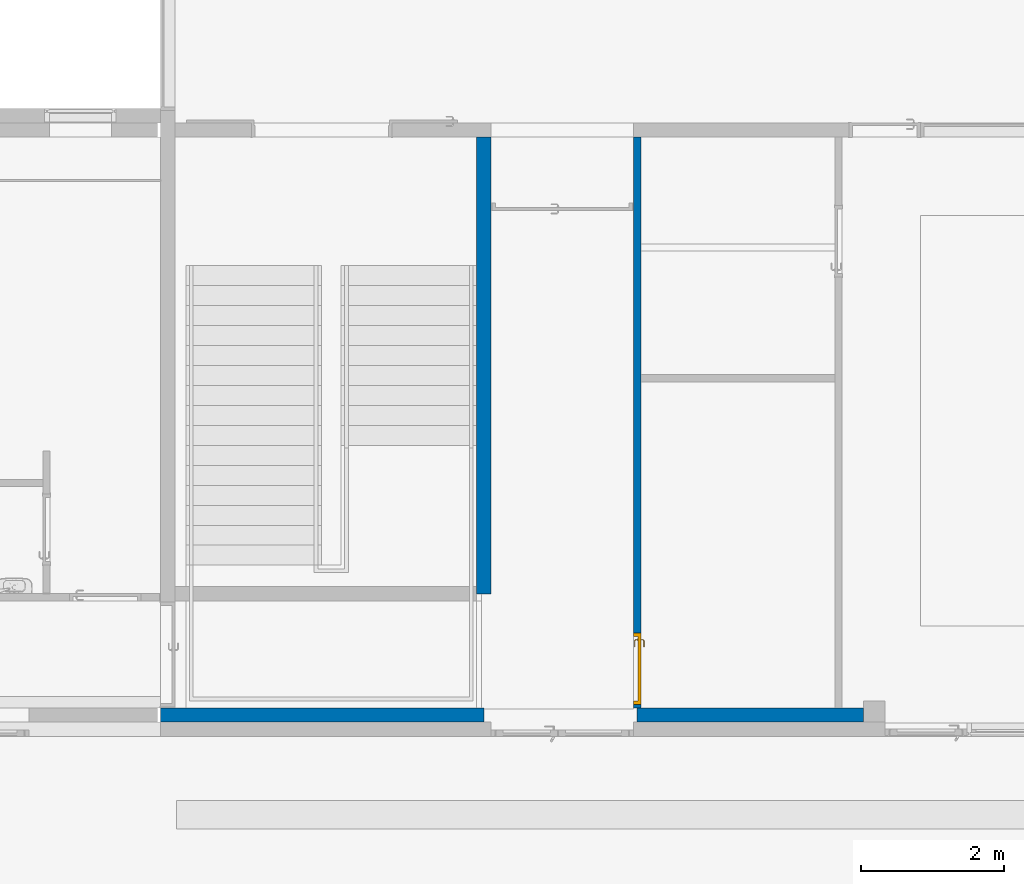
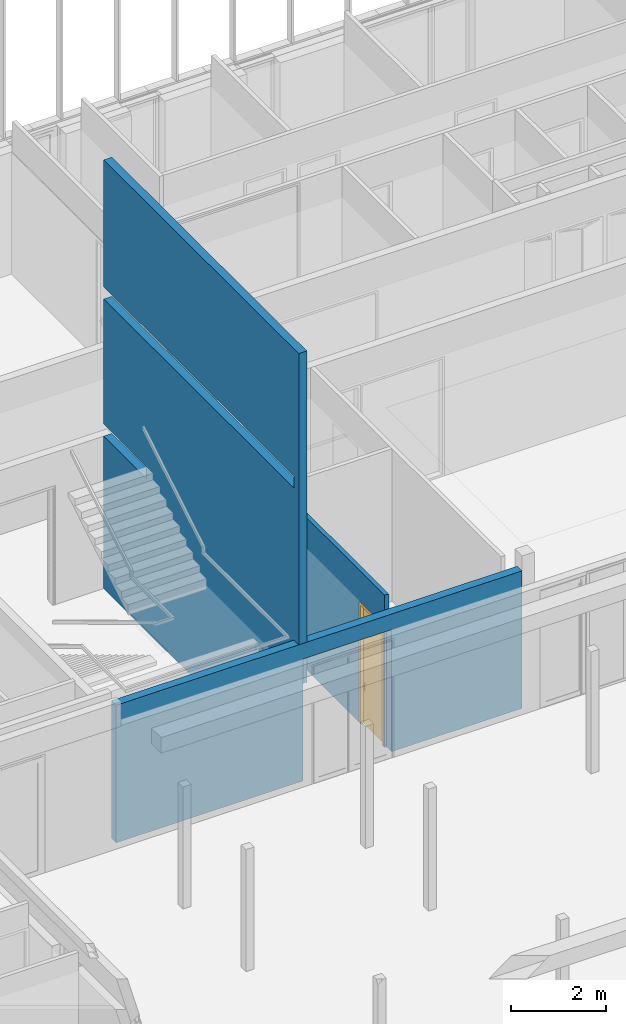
# One storey, part 125 of 240: 3 walls, 1 door, 5 openings.
"""IFC2X3 building model written with IfcOpenShell, lengths in centimetres."""

from ifc_helpers import new_model, entity, si_unit, converted_unit, derived_unit, direction, frame, frame_2d, origin, origin_2d_with_axis, place, context, subcontext, project, spatial, polyline, rectangle, extrude, clip, bounded_halfspace, faceted_brep, source, transform, mapped, material, material_list, layer, layer_set, layer_usage, type_object, type_shapes, element, fill, save


model = new_model("IFC2X3")

# Units and contexts
model_context = context("Model", 3, precision=0.001, world=origin(), true_north=direction((6.12303176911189e-17, 1.0)))
body_context = subcontext(model_context, "Body", "Model", "MODEL_VIEW")
ifc_project = project(units=[si_unit("LENGTHUNIT", "METRE", prefix="CENTI"), si_unit("AREAUNIT", "SQUARE_METRE"), si_unit("VOLUMEUNIT", "CUBIC_METRE"), converted_unit("PLANEANGLEUNIT", "DEGREE", entity("IfcRatioMeasure", 0.0174532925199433), si_unit("PLANEANGLEUNIT", "RADIAN"), dimensions=[0, 0, 0, 0, 0, 0, 0]), si_unit("MASSUNIT", "GRAM", prefix="KILO"), derived_unit("MASSDENSITYUNIT", [(si_unit("MASSUNIT", "GRAM", prefix="KILO"), 1), (si_unit("LENGTHUNIT", "METRE"), -3)]), si_unit("TIMEUNIT", "SECOND"), si_unit("FREQUENCYUNIT", "HERTZ"), si_unit("THERMODYNAMICTEMPERATUREUNIT", "DEGREE_CELSIUS"), derived_unit("THERMALTRANSMITTANCEUNIT", [(si_unit("MASSUNIT", "GRAM", prefix="KILO"), 1), (si_unit("THERMODYNAMICTEMPERATUREUNIT", "KELVIN"), -1), (si_unit("TIMEUNIT", "SECOND"), -3)]), derived_unit("VOLUMETRICFLOWRATEUNIT", [(si_unit("LENGTHUNIT", "METRE"), 3), (si_unit("TIMEUNIT", "SECOND"), -1)]), si_unit("ELECTRICCURRENTUNIT", "AMPERE"), si_unit("ELECTRICVOLTAGEUNIT", "VOLT"), si_unit("POWERUNIT", "WATT"), si_unit("FORCEUNIT", "NEWTON", prefix="KILO"), si_unit("ILLUMINANCEUNIT", "LUX"), si_unit("LUMINOUSFLUXUNIT", "LUMEN"), si_unit("LUMINOUSINTENSITYUNIT", "CANDELA"), derived_unit("USERDEFINED", [(si_unit("MASSUNIT", "GRAM", prefix="KILO"), -1), (si_unit("LENGTHUNIT", "METRE"), -2), (si_unit("TIMEUNIT", "SECOND"), 3), (si_unit("LUMINOUSFLUXUNIT", "LUMEN"), 1)]), derived_unit("LINEARVELOCITYUNIT", [(si_unit("LENGTHUNIT", "METRE"), 1), (si_unit("TIMEUNIT", "SECOND"), -1)]), si_unit("PRESSUREUNIT", "PASCAL"), derived_unit("USERDEFINED", [(si_unit("LENGTHUNIT", "METRE"), -2), (si_unit("MASSUNIT", "GRAM", prefix="KILO"), 1), (si_unit("TIMEUNIT", "SECOND"), -2)])], contexts=[model_context])

# Site, building, storey
site_placement = place(None, frame((-2781.94577612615, 7442.24238424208, 0.0)))
site = spatial("IfcSite", under=ifc_project, at=site_placement, Name="Default", CompositionType="ELEMENT")
building_placement = place(site_placement, origin())
building = spatial("IfcBuilding", under=site, at=building_placement, CompositionType="ELEMENT")
storey_placement = place(building_placement, origin())
storey = spatial("IfcBuildingStorey", under=building, at=storey_placement, Name="N00 - COO", CompositionType="ELEMENT", Elevation=0.0)

# Wall, openings
ifc_material_1 = material(Name="01 - Maçonnerie")
ifc_layer_1 = layer(ifc_material_1, 20.0)
ifc_layer_set_1 = layer_set([ifc_layer_1], Name="Mur de base:04 - Structure - béton - 20cm")
ifc_layer_usage_1 = layer_usage(ifc_layer_set_1, "AXIS2", "NEGATIVE", 10.0)
wall_type_1 = type_object("IfcWallType", Name="Mur de base:04 - Structure - béton - 20cm", PredefinedType="STANDARD", material=ifc_layer_set_1)
wall_1_placement = place(building_placement, frame((-7976.49987760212, -1110.0, 0.0), z_axis=(0.0, 0.0, 1.0), x_axis=(0.0, -1.0, 0.0)))
wall_1 = element("IfcWallStandardCase", 1, at=wall_1_placement, inside=storey, type_object=wall_type_1, material=ifc_layer_usage_1, Name="Mur de base:04 - Structure - béton - 20cm", ObjectType="Mur de base:04 - Structure - béton - 20cm", context=body_context, shape_type="Clipping", body=[
    clip(clip(extrude(rectangle(XDim=820.079033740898, YDim=19.9999999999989, at=frame_2d((410.039516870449, 2.1316282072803e-14), x_axis=(-1.0, 0.0))), origin(), (0.0, 0.0, 1.0), 1100.0), bounded_halfspace(frame((800.079033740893, 10.0, 743.0), z_axis=(1.0, 0.0, 0.0), x_axis=(0.0, 0.0, 1.0)), True, frame((800.079033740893, 10.0, 743.0), z_axis=(1.0, 0.0, 0.0), x_axis=(0.0, 0.0, 1.0)), polyline([(0.0, 0.0), (31.0, 0.0), (31.0, 20.0), (0.0, 20.0), (0.0, 0.0)]))), bounded_halfspace(frame((180.0, 10.0, 391.0), z_axis=(1.0, 0.0, 0.0), x_axis=(0.0, 0.0, 1.0)), True, frame((180.0, 10.0, 391.0), z_axis=(1.0, 0.0, 0.0), x_axis=(0.0, 0.0, 1.0)), polyline([(0.0, 0.0), (31.0, 0.0), (31.0, 20.0), (0.0, 20.0), (0.0, 0.0)]))),
])
opening_1_placement = place(building_placement, frame((-7976.49987760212, -1110.0, 0.0), z_axis=(0.0, 0.0, 1.0), x_axis=(0.0, -1.0, 0.0)))
element("IfcOpeningElement", 2, at=opening_1_placement, cuts=wall_1, Name="Mur de base:04 - Structure - béton - 20cm:1", ObjectType="Opening", context=body_context, shape_type="SweptSolid", body=[
    extrude(rectangle(XDim=801.389033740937, YDim=13.0001640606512, at=origin_2d_with_axis()), frame((400.694516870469, 3.49991796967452, 306.0)), (0.0, 0.0, 1.0), 6.99999999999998),
])
opening_2_placement = place(wall_1_placement, origin())
element("IfcOpeningElement", 3, at=opening_2_placement, cuts=wall_1, Name="Mur de base:04 - Structure - béton - 20cm", ObjectType="Opening", context=body_context, shape_type="SweptSolid", body=[
    extrude(rectangle(XDim=304.500000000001, YDim=10.0000000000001, at=frame_2d((1.08357767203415e-13, 0.0), x_axis=(0.0, 1.0))), frame((97.7880292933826, 11.5, 152.250000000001), z_axis=(0.0, 1.0, 0.0), x_axis=(1.0, 0.0, 0.0)), (0.0, 0.0, 1.0), 196.999999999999),
])
opening_3_placement = place(wall_1_placement, origin())
element("IfcOpeningElement", 4, at=opening_3_placement, cuts=wall_1, Name="Mur de base:04 - Structure - béton - 20cm:4570", ObjectType="Opening", context=body_context, shape_type="SweptSolid", body=[
    extrude(rectangle(XDim=250.0, YDim=189.99999999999, at=frame_2d((-1.13686837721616e-13, 0.0), x_axis=(0.0, 1.0))), frame((735.079033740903, 10.0, 125.0), z_axis=(0.0, -1.0, 0.0), x_axis=(1.0, 0.0, 0.0)), (0.0, 0.0, 1.0), 20.0),
])

# Wall, opening
ifc_layer_usage_2 = layer_usage(ifc_layer_set_1, "AXIS2", "NEGATIVE", 10.0)
wall_2_placement = place(building_placement, frame((-8429.49987766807, -1920.07903364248, 0.0)))
wall_2 = element("IfcWallStandardCase", 5, at=wall_2_placement, inside=storey, type_object=wall_type_1, material=ifc_layer_usage_2, Name="Mur de base:04 - Structure - béton - 20cm", ObjectType="Mur de base:04 - Structure - béton - 20cm", context=body_context, shape_type="SweptSolid", body=[
    extrude(rectangle(XDim=984.999836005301, YDim=19.9999999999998, at=frame_2d((492.49991800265, 0.0), x_axis=(-1.0, 0.0))), origin(), (0.0, 0.0, 1.0), 353.000000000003),
])
opening_4_placement = place(wall_2_placement, origin())
element("IfcOpeningElement", 6, at=opening_4_placement, cuts=wall_2, Name="Mur de base:04 - Structure - béton - 20cm", ObjectType="Opening", context=body_context, shape_type="SweptSolid", body=[
    extrude(rectangle(XDim=313.0, YDim=215.000000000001, at=frame_2d((0.0, -4.33431068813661e-13), x_axis=(1.0, 0.0))), frame((560.500000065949, -10.0, 156.5), z_axis=(0.0, 1.0, 0.0), x_axis=(0.0, 0.0, -1.0)), (0.0, 0.0, 1.0), 19.9999999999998),
])

# Wall, opening, door
ifc_material_2 = material(Name="01 - Enduit/Plâtre")
ifc_layer_2 = layer(ifc_material_2, 1.3)
ifc_material_3 = material(Name="00 - Isolant")
ifc_layer_3 = layer(ifc_material_3, 7.4)
ifc_layer_4 = layer(ifc_material_2, 1.3)
ifc_layer_set_2 = layer_set([ifc_layer_2, ifc_layer_3, ifc_layer_4], Name="Mur de base:06 - cloisons - Ba13 10cm")
ifc_layer_usage_3 = layer_usage(ifc_layer_set_2, "AXIS2", "NEGATIVE", 5.0)
wall_type_2 = type_object("IfcWallType", Name="Mur de base:06 - cloisons - Ba13 10cm", PredefinedType="STANDARD", material=ifc_layer_set_2)
wall_3_placement = place(building_placement, frame((-7761.49987760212, -1110.0, 0.0), z_axis=(0.0, 0.0, 1.0), x_axis=(0.0, -1.0, 0.0)))
wall_3 = element("IfcWallStandardCase", 7, at=wall_3_placement, inside=storey, type_object=wall_type_2, material=ifc_layer_usage_3, Name="Mur de base:06 - cloisons - Ba13 10cm", ObjectType="Mur de base:06 - cloisons - Ba13 10cm", context=body_context, shape_type="Clipping", body=[
    clip(extrude(rectangle(XDim=800.079033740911, YDim=9.99999999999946, at=frame_2d((400.039516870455, 0.0), x_axis=(-1.0, 0.0))), origin(), (0.0, 0.0, 1.0), 391.0), bounded_halfspace(frame((0.0, -5.0, 391.0), z_axis=(0.0, 0.0, -1.0), x_axis=(-1.0, 0.0, 0.0)), True, frame((0.0, -5.0, 391.0)), polyline([(0.0, 0.0), (795.07903374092, 0.0), (795.07903374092, 10.0), (343.0, 10.0), (333.0, 10.0), (0.0, 10.0), (0.0, 0.0)]))),
])
opening_5_placement = place(wall_3_placement, frame((695.079033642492, -5.0, 0.0)))
opening_5 = element("IfcOpeningElement", 8, at=opening_5_placement, cuts=wall_3, Name="Int. Simple:PP (0.93m x 3.06m):1", ObjectType="Opening", context=body_context, shape_type="SweptSolid", body=[
    extrude(rectangle(XDim=309.500000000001, YDim=99.9999999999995, at=frame_2d((154.750000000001, 49.9999999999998), x_axis=(1.0, 0.0))), frame((0.0, 0.0, 0.0), z_axis=(0.0, 1.0, 0.0), x_axis=(0.0, 0.0, 1.0)), (0.0, 0.0, 1.0), 10.0),
])
ifc_material_4 = material(Name="Finition Peinture - Blanc satiné")
ifc_material_5 = material(Name="Bois - Panneau de porte")
ifc_material_6 = material(Name="Bois - Cadre de porte")
ifc_material_list_1 = material_list([ifc_material_4, ifc_material_5, ifc_material_6])
ifc_material_list_2 = material_list([ifc_material_4, ifc_material_5, ifc_material_6])
door_style = type_object("IfcDoorStyle", Name="PP (0.93m x 3.06m)", ConstructionType="NOTDEFINED", OperationType="SINGLE_SWING_RIGHT", ParameterTakesPrecedence=False, Sizeable=False, material=ifc_material_list_2)
shared_shape = source(origin(), body_context, "Body", "Brep", [
    faceted_brep([(99.5000000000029, -0.500000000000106, 87.0), (99.5000000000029, -0.500000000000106, 108.0), (98.535276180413, -0.500000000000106, 108.399601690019), (97.5000000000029, -0.500000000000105, 108.535898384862), (96.4647238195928, -0.500000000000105, 108.399601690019), (95.500000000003, -0.500000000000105, 108.0), (95.5000000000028, -0.500000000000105, 87.0), (96.4647238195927, -0.500000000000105, 86.6003983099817), (97.5000000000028, -0.500000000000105, 86.464101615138), (98.5352761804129, -0.500000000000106, 86.6003983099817), (99.5000000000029, 0.0, 108.0), (99.5000000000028, 0.0, 87.0), (98.5352761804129, 0.0, 86.6003983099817), (97.5000000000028, 0.0, 86.464101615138), (96.4647238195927, 0.0, 86.6003983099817), (95.5000000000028, 0.0, 87.0), (95.5000000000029, 0.0, 108.0), (96.4647238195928, 0.0, 108.399601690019), (97.5000000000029, 0.0, 108.535898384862), (98.535276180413, 0.0, 108.399601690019)], [[[0, 1, 2, 3, 4, 5, 6, 7, 8, 9]], [[10, 11, 12, 13, 14, 15, 16, 17, 18, 19]], [[9, 12, 11, 0]], [[8, 13, 12, 9]], [[7, 14, 13, 8]], [[7, 6, 15, 14]], [[15, 6, 5, 16]], [[4, 17, 16, 5]], [[3, 18, 17, 4]], [[2, 19, 18, 3]], [[2, 1, 10, 19]], [[11, 10, 1, 0]]]),
    faceted_brep([(99.5000000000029, 4.0, 87.0), (99.5000000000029, 4.0, 108.0), (98.535276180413, 4.0, 108.399601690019), (97.5000000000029, 4.0, 108.535898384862), (96.4647238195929, 4.0, 108.399601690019), (95.500000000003, 4.0, 108.0), (95.5000000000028, 4.0, 87.0), (96.4647238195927, 4.0, 86.6003983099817), (97.5000000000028, 4.0, 86.464101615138), (98.5352761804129, 4.0, 86.6003983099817), (97.5000000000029, 4.49999999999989, 108.535898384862), (98.535276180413, 4.49999999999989, 108.399601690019), (99.5000000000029, 4.49999999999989, 108.0), (99.5000000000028, 4.49999999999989, 87.0), (98.5352761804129, 4.49999999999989, 86.6003983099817), (97.5000000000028, 4.49999999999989, 86.464101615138), (96.4647238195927, 4.49999999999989, 86.6003983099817), (95.5000000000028, 4.49999999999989, 87.0), (95.500000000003, 4.49999999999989, 108.0), (96.4647238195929, 4.49999999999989, 108.399601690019)], [[[0, 1, 2, 3, 4, 5, 6, 7, 8, 9]], [[10, 11, 12, 13, 14, 15, 16, 17, 18, 19]], [[4, 19, 18, 5]], [[3, 10, 19, 4]], [[2, 11, 10, 3]], [[2, 1, 12, 11]], [[13, 12, 1, 0]], [[9, 14, 13, 0]], [[8, 15, 14, 9]], [[7, 16, 15, 8]], [[7, 6, 17, 16]], [[17, 6, 5, 18]]]),
    faceted_brep([(97.2974701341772, -0.50000000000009, 100.778044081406), (97.7025298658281, -0.500000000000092, 100.778044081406), (98.1000000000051, -0.500000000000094, 100.699999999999), (98.100000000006, -0.500000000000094, 99.2999999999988), (97.7025298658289, -0.500000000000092, 99.221955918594), (97.297470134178, -0.50000000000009, 99.2219559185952), (96.9000000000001, -0.500000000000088, 99.3000000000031), (96.9000000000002, -0.500000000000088, 100.7), (97.7025298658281, -3.10045754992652, 100.778044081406), (98.1000000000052, -3.26509507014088, 100.7), (97.2974701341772, -2.93267631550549, 100.778044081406), (95.9298602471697, -4.30028620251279, 100.778044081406), (96.0976414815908, -4.70534593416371, 100.778044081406), (96.9000000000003, -2.76803879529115, 100.7), (96.9000000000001, -2.76803879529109, 99.3000000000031), (97.297470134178, -2.93267631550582, 99.2219559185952), (97.7025298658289, -3.10045754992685, 99.221955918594), (96.0976414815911, -4.70534593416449, 99.221955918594), (95.9298602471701, -4.30028620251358, 99.2219559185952), (98.100000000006, -3.26509507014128, 99.2999999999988), (96.2622790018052, -5.10281606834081, 100.7), (95.7652227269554, -3.90281606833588, 100.7), (95.7652227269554, -3.90281606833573, 99.3000000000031), (96.2622790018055, -5.10281606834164, 99.2999999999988), (87.4981359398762, -5.10281606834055, 100.7), (87.4981359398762, -4.70534593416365, 100.778044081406), (87.4981359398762, -4.30028620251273, 100.778044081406), (87.4981359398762, -3.90281606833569, 100.699999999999), (87.4981359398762, -3.90281606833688, 99.3000000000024), (87.4981359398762, -4.30028620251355, 99.2219559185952), (87.4981359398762, -4.70534593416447, 99.221955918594), (87.4981359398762, -5.10281606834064, 99.2999999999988), (91.7139980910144, -4.5028160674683, 100.78786867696), (92.2692302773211, -5.1028160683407, 100.7), (91.6316793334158, -3.9028160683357, 100.7), (91.631679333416, -3.9028160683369, 99.3000000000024), (91.7139981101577, -4.50281607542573, 99.2121313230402), (92.2692310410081, -5.10281606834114, 99.2999999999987)], [[[0, 1, 2, 3, 4, 5, 6, 7]], [[2, 1, 8, 9]], [[1, 0, 10, 11, 12, 8]], [[0, 7, 13, 10]], [[14, 13, 7, 6]], [[5, 15, 14, 6]], [[5, 4, 16, 17, 18, 15]], [[3, 19, 16, 4]], [[9, 19, 3, 2]], [[9, 8, 12, 20]], [[10, 13, 21, 11]], [[22, 21, 13, 14]], [[14, 15, 18, 22]], [[16, 19, 23, 17]], [[20, 23, 19, 9]], [[24, 25, 26, 27, 28, 29, 30, 31]], [[32, 25, 33]], [[33, 25, 24]], [[33, 20, 12]], [[11, 34, 32]], [[34, 11, 21]], [[27, 26, 34]], [[32, 26, 25]], [[32, 34, 26]], [[32, 33, 12]], [[11, 32, 12]], [[21, 22, 35, 28, 27, 34]], [[36, 29, 35]], [[30, 36, 37]], [[18, 35, 22]], [[29, 28, 35]], [[30, 37, 31]], [[37, 17, 23]], [[36, 17, 37]], [[36, 18, 17]], [[36, 35, 18]], [[29, 36, 30]], [[23, 20, 33, 24, 31, 37]]]),
    faceted_brep([(97.2974701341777, 4.49999999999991, 99.2219559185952), (97.7025298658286, 4.49999999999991, 99.221955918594), (98.1000000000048, 4.4999999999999, 99.2999999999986), (98.1000000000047, 4.4999999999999, 100.7), (97.7025298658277, 4.49999999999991, 100.778044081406), (97.2974701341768, 4.49999999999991, 100.778044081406), (96.8999999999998, 4.49999999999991, 100.7), (96.900000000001, 4.49999999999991, 99.3000000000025), (96.8999999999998, 6.7485204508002, 100.7), (96.8999999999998, 6.74852045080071, 99.3000000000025), (97.2974701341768, 6.91315797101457, 100.778044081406), (97.7025298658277, 7.0809392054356, 100.778044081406), (96.0838906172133, 8.69957845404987, 100.778044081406), (95.9161093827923, 8.29451872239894, 100.778044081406), (98.1000000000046, 7.24557672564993, 100.7), (98.1000000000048, 7.24557672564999, 99.2999999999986), (97.7025298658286, 7.08093920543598, 99.221955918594), (97.2974701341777, 6.91315797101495, 99.2219559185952), (95.9161093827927, 8.29451872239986, 99.2219559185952), (96.0838906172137, 8.69957845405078, 99.221955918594), (95.751471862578, 7.89704858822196, 100.7), (95.7514718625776, 7.89704858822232, 99.3000000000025), (96.2485281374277, 9.09704858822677, 100.7), (96.2485281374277, 9.09704858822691, 99.2999999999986), (87.4954216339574, 8.29451872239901, 100.778044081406), (87.4954216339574, 8.69957845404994, 100.778044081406), (87.4954216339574, 9.09704858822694, 100.7), (87.4954216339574, 9.09704858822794, 99.2999999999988), (87.4954216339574, 8.6995784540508, 99.221955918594), (87.4954216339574, 8.29451872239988, 99.2219559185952), (87.4954216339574, 7.89704858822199, 99.3000000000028), (87.4954216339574, 7.89704858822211, 100.7), (91.6234467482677, 7.89704858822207, 100.7), (91.6234479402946, 7.89704858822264, 99.3000000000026), (91.7057655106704, 8.49704858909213, 100.78786867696), (92.255479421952, 9.09704858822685, 100.7), (92.2554795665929, 9.09704858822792, 99.2999999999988), (91.7057654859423, 8.49704858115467, 99.2121313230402)], [[[0, 1, 2, 3, 4, 5, 6, 7]], [[8, 9, 7, 6]], [[5, 10, 8, 6]], [[5, 4, 11, 12, 13, 10]], [[3, 14, 11, 4]], [[14, 3, 2, 15]], [[2, 1, 16, 15]], [[1, 0, 17, 18, 19, 16]], [[0, 7, 9, 17]], [[20, 21, 9, 8]], [[8, 10, 13, 20]], [[14, 22, 12, 11]], [[23, 22, 14, 15]], [[15, 16, 19, 23]], [[17, 9, 21, 18]], [[24, 25, 26, 27, 28, 29, 30, 31]], [[21, 20, 32, 31, 30, 33]], [[34, 24, 32]], [[25, 34, 35]], [[13, 32, 20]], [[24, 31, 32]], [[25, 35, 26]], [[35, 12, 22]], [[34, 12, 35]], [[34, 13, 12]], [[34, 32, 13]], [[24, 34, 25]], [[22, 23, 36, 27, 26, 35]], [[37, 28, 36]], [[36, 28, 27]], [[36, 23, 19]], [[18, 33, 37]], [[33, 18, 21]], [[30, 29, 33]], [[37, 29, 28]], [[37, 33, 29]], [[37, 36, 19]], [[18, 37, 19]]]),
    faceted_brep([(103.500000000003, 4.0, 306.0), (103.500000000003, 4.0, 0.0), (10.5000000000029, 4.0, 0.0), (10.5000000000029, 4.0, 306.0), (103.500000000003, 0.0, 306.0), (10.5000000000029, 0.0, 306.0), (10.5000000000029, 0.0, 0.0), (103.500000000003, 0.0, 0.0)], [[[0, 1, 2, 3]], [[4, 5, 6, 7]], [[3, 5, 4, 0]], [[2, 6, 5, 3]], [[1, 7, 6, 2]], [[0, 4, 7, 1]]]),
    faceted_brep([(107.0, 10.0, 0.0), (107.0, 0.0, 0.0), (108.500000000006, 0.0, 0.0), (108.500000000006, -0.500000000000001, 0.0), (103.500000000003, -0.500000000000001, 0.0), (103.500000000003, 4.0, 0.0), (102.0, 4.0, 0.0), (102.0, 10.5000000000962, 0.0), (108.500000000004, 10.5000000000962, 0.0), (108.500000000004, 10.0, 0.0), (108.500000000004, 10.0, 311.0), (5.50000000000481, 10.0, 311.0), (5.50000000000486, 10.0, 0.0), (7.0, 10.0, 0.0), (7.0, 10.0, 309.500000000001), (107.0, 10.0, 309.500000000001), (108.500000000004, 10.5000000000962, 311.0), (102.0, 10.5000000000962, 304.5), (12.0, 10.5000000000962, 304.5), (12.0, 10.5000000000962, 0.0), (5.50000000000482, 10.5000000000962, 0.0), (5.50000000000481, 10.5000000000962, 311.0), (102.0, 4.0, 304.5), (103.500000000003, 4.0, 306.0), (10.5000000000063, 4.0, 306.0), (10.5000000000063, 4.0, 0.0), (12.0, 4.0, 0.0), (12.0, 4.0, 304.5), (103.500000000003, -0.500000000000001, 306.0), (108.500000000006, -0.500000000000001, 311.0), (5.5000000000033, -0.500000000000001, 311.0), (5.50000000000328, -0.500000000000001, 0.0), (10.5000000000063, -0.500000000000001, 0.0), (10.5000000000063, -0.500000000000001, 306.0), (108.500000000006, 0.0, 311.0), (107.0, 0.0, 309.500000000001), (7.0, 0.0, 309.500000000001), (7.0, 0.0, 0.0), (5.5000000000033, 0.0, 0.0), (5.50000000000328, 0.0, 311.0)], [[[0, 1, 2, 3, 4, 5, 6, 7, 8, 9]], [[9, 10, 11, 12, 13, 14, 15, 0]], [[8, 16, 10, 9]], [[7, 17, 18, 19, 20, 21, 16, 8]], [[7, 6, 22, 17]], [[5, 23, 24, 25, 26, 27, 22, 6]], [[5, 4, 28, 23]], [[3, 29, 30, 31, 32, 33, 28, 4]], [[2, 34, 29, 3]], [[1, 35, 36, 37, 38, 39, 34, 2]], [[0, 15, 35, 1]], [[14, 13, 37, 36]], [[13, 12, 20, 19, 26, 25, 32, 31, 38, 37]], [[21, 20, 12, 11]], [[27, 26, 19, 18]], [[33, 32, 25, 24]], [[39, 38, 31, 30]], [[16, 21, 11, 10]], [[22, 27, 18, 17]], [[28, 33, 24, 23]], [[34, 39, 30, 29]], [[15, 14, 36, 35]]]),
])
type_shapes(door_style, [shared_shape])
door_placement = place(opening_5_placement, frame((107.0, 10.0, 0.0), z_axis=(0.0, 0.0, 1.0), x_axis=(-1.0, 0.0, 0.0)))
door = element("IfcDoor", 9, at=door_placement, inside=storey, type_object=door_style, material=ifc_material_list_1, Name="Int. Simple:PP (0.93m x 3.06m)", ObjectType="Int. Simple:PP (0.93m x 3.06m)", OverallHeight=309.500000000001, OverallWidth=99.9999999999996, context=body_context, shape_type="MappedRepresentation", body=[
    mapped(shared_shape, transform((0.0, 0.0, 0.0), scale=1.0)),
])
fill(opening_5, door)

save(model, "model.ifc")
